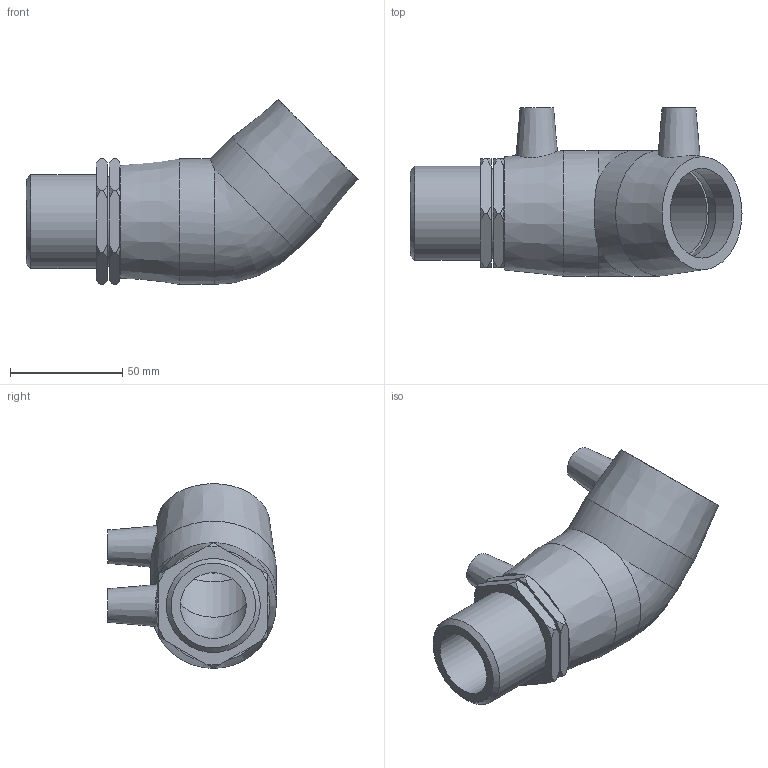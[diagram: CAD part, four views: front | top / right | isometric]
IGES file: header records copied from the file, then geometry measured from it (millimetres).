
Global section: file name: 497604040013.ipt; native system: Autodesk Inventor 2015; preprocessor: unknown; author: KIM; date: 20171106.094435; units: millimetre
Bounding box: 148 x 75 x 82.34 mm (x, y, z)
Volume: 182221.8 mm3; surface area: 49005.1 mm2
Topology: 1 solids, 2 shells, 77 faces, 196 edges, 133 vertices
Faces by surface type: plane 30, cone 29, revolution 8, cylinder 8, bspline 2
Full cylindrical faces by diameter (mm): 4 x2, 40 x3, 41.91 x1, 56 x2
